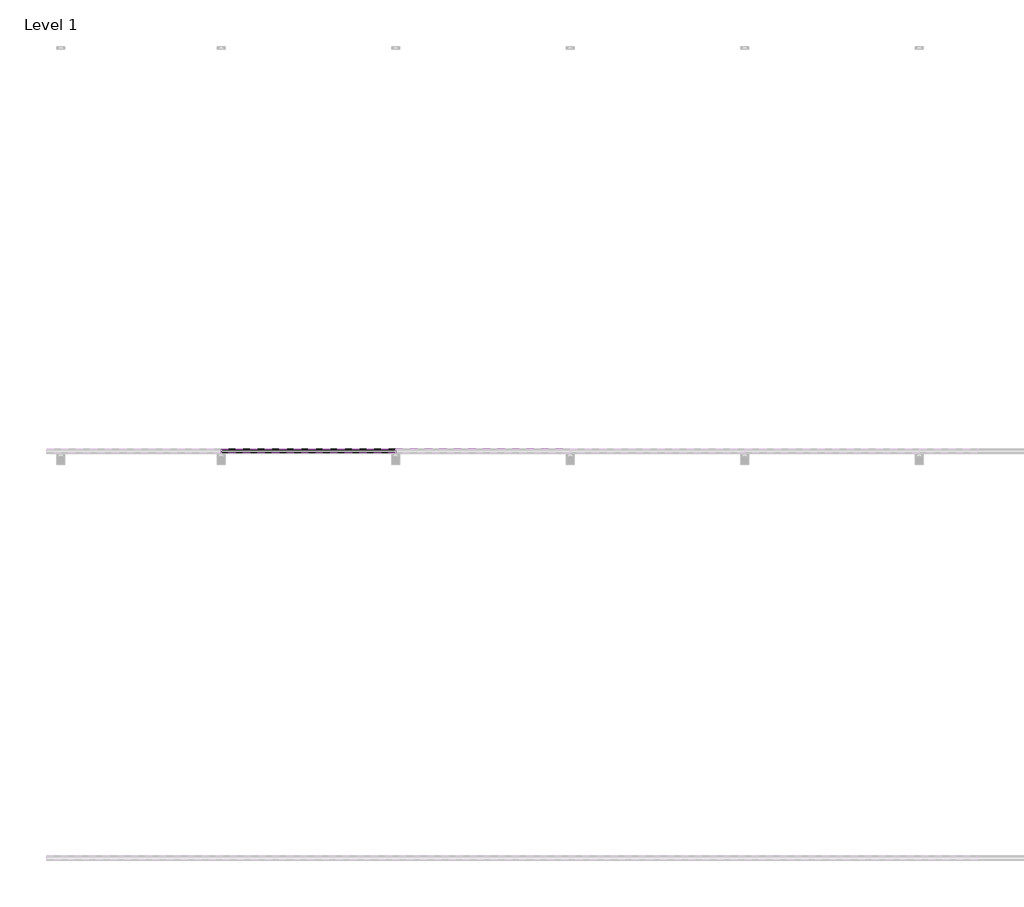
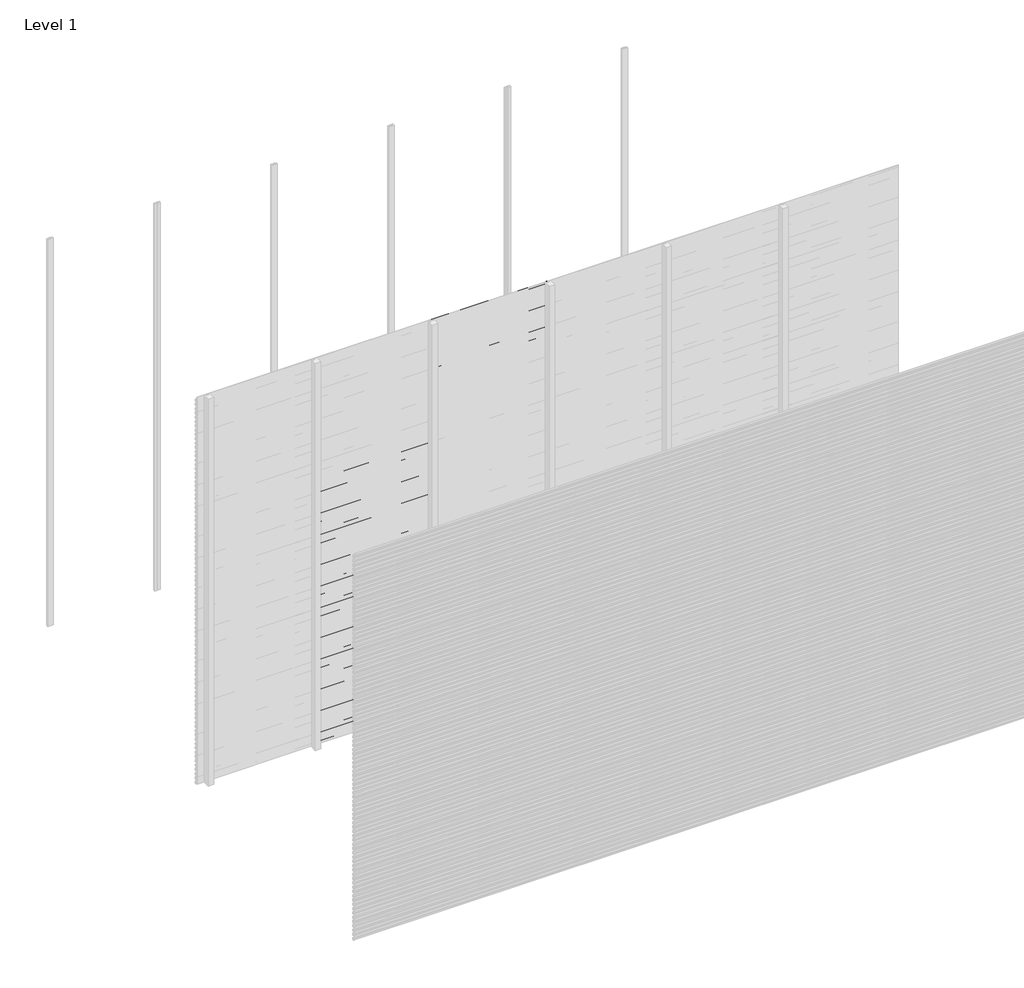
# One storey, part 44 of 96: 77 proxies.
"""IFC4 building model written with IfcOpenShell, lengths in millimetres."""

import ifcopenshell
import ifcopenshell.guid

model = None  # the IFC model being written
_history = None  # IfcOwnerHistory: only IFC2X3 demands one
_inside = {}  # id of a spatial element -> (the spatial element, [elements in it])
_under = {}  # id of a project, library or spatial element -> (it, [spatial elements below it])
_declared = {}  # id of a project -> (the project, [libraries it declares])
_typed = {}  # id of a type object -> (the type object, [elements of that type])
_made_of = {}  # id of a material, layer set ... -> (it, [elements and type objects made of it])


def new_model(schema):
    """Start an empty IFC model of exactly this schema.

    Asked for "IFC4X3", IfcOpenShell would pick the latest addendum, in which some entities
    have other attributes; the version numbers below select the first issue.
    IFC2X3 requires an IfcOwnerHistory on every rooted entity: one is made here for all.
    """
    global model, _history
    if schema == "IFC4X3":
        model = ifcopenshell.file(schema_version=(4, 3, 0, 0))
    else:
        model = ifcopenshell.file(schema=schema)
    _inside.clear()
    _under.clear()
    _declared.clear()
    _typed.clear()
    _made_of.clear()
    _history = None
    if model.schema == "IFC2X3":
        org = make("IfcOrganization", Name="unknown")
        user = make(
            "IfcPersonAndOrganization",
            ThePerson=make("IfcPerson", FamilyName="unknown"),
            TheOrganization=org,
        )
        app = make(
            "IfcApplication",
            ApplicationDeveloper=org,
            Version="unknown",
            ApplicationFullName="unknown",
            ApplicationIdentifier="unknown",
        )
        _history = make(
            "IfcOwnerHistory",
            OwningUser=user,
            OwningApplication=app,
            ChangeAction="ADDED",
            CreationDate=0,
        )
    return model


def make(cls, **values):
    """One entity of the class cls with the attributes given. An attribute that is None is left unset."""
    return model.create_entity(
        cls, **{name: value for name, value in values.items() if value is not None}
    )


def rooted(cls, **values):
    """An entity with a GlobalId (a new one), such as an element, a storey or a relation."""
    return make(cls, GlobalId=ifcopenshell.guid.new(), OwnerHistory=_history, **values)


def si_unit(unit_type, name, prefix=None):
    """IfcSIUnit, for example si_unit("LENGTHUNIT", "METRE", prefix="MILLI")."""
    return make("IfcSIUnit", UnitType=unit_type, Prefix=prefix, Name=name)


def assignment(units):
    """IfcUnitAssignment: the units of a project."""
    return None if units is None else make("IfcUnitAssignment", Units=units)


def point(xyz):
    """IfcCartesianPoint."""
    return None if xyz is None else make("IfcCartesianPoint", Coordinates=xyz)


def direction(xyz):
    """IfcDirection."""
    return None if xyz is None else make("IfcDirection", DirectionRatios=xyz)


def frame(location, z_axis=None, x_axis=None):
    """IfcAxis2Placement3D, a coordinate frame: its origin and axes. An axis left out is left unset."""
    return make(
        "IfcAxis2Placement3D",
        Location=point(location),
        Axis=direction(z_axis),
        RefDirection=direction(x_axis),
    )


def origin():
    """The frame at (0, 0, 0) with its axes left unset."""
    return frame((0.0, 0.0, 0.0))


def place(relative_to, where):
    """IfcLocalPlacement: puts the frame where relative to a parent placement (None: the world)."""
    return make(
        "IfcLocalPlacement", PlacementRelTo=relative_to, RelativePlacement=where
    )


def context(
    kind, dimensions, precision=None, world=None, true_north=None, identifier=None
):
    """IfcGeometricRepresentationContext, for example the 3D "Model" context."""
    return make(
        "IfcGeometricRepresentationContext",
        ContextIdentifier=identifier,
        ContextType=kind,
        CoordinateSpaceDimension=dimensions,
        Precision=precision,
        WorldCoordinateSystem=world,
        TrueNorth=true_north,
    )


def project(units=None, contexts=None):
    """IfcProject with its units and contexts."""
    return rooted(
        "IfcProject",
        Name="project",
        RepresentationContexts=contexts,
        UnitsInContext=assignment(units),
    )


def spatial(cls, under=None, at=None, **own):
    """A site, building, storey or space (cls), placed at a placement, below another one or the project."""
    s = rooted(cls, ObjectPlacement=at, **own)
    if under is not None:
        _under.setdefault(under.id(), (under, []))[1].append(s)
    return s


def polyline(points):
    """IfcPolyline through the points."""
    return make("IfcPolyline", Points=[point(p) for p in points])


def outline(outer, holes=None, kind="AREA"):
    """IfcArbitraryClosedProfileDef: a profile drawn as a closed curve; with holes, ...WithVoids."""
    if holes is None:
        return make("IfcArbitraryClosedProfileDef", ProfileType=kind, OuterCurve=outer)
    return make(
        "IfcArbitraryProfileDefWithVoids",
        ProfileType=kind,
        OuterCurve=outer,
        InnerCurves=holes,
    )


def extrude(swept, where, along, depth):
    """IfcExtrudedAreaSolid: the profile swept, set in the frame where, extruded along a direction by depth."""
    return make(
        "IfcExtrudedAreaSolid",
        SweptArea=swept,
        Position=where,
        ExtrudedDirection=direction(along),
        Depth=depth,
    )


def shape(context_of_items, identifier, shape_type, items):
    """IfcShapeRepresentation: the items that make up one representation, for example the "Body"."""
    return make(
        "IfcShapeRepresentation",
        ContextOfItems=context_of_items,
        RepresentationIdentifier=identifier,
        RepresentationType=shape_type,
        Items=items,
    )


def made_of(thing, what):
    """Note that an element or type object is made of a material, layer set ...; save() writes the relation."""
    if what is not None:
        _made_of.setdefault(what.id(), (what, []))[1].append(thing)
    return thing


def element(
    cls,
    number,
    at=None,
    inside=None,
    cuts=None,
    type_object=None,
    material=None,
    context=None,
    identifier="Body",
    shape_type=None,
    held_by="IfcProductDefinitionShape",
    body=None,
    shapes=None,
    **own,
):
    """One element of the class cls, such as IfcWall. Its Tag is "e" and its number.

    at: its placement. inside: the storey or other place that contains it. cuts: it is an
    opening in that element (IfcRelVoidsElement). A single representation is given by context,
    identifier, shape_type and body (its items); several are given by shapes. held_by: the class
    of the entity that holds the representations. save() writes the other relations.
    """
    e = rooted(cls, Tag="e%d" % number, ObjectPlacement=at, **own)
    if body is not None:
        shapes = [shape(context, identifier, shape_type, body)]
    if shapes is not None:
        e.Representation = make(held_by, Representations=shapes)
    if inside is not None:
        _inside.setdefault(inside.id(), (inside, []))[1].append(e)
    if cuts is not None:
        rooted(
            "IfcRelVoidsElement", RelatingBuildingElement=cuts, RelatedOpeningElement=e
        )
    if type_object is not None:
        _typed.setdefault(type_object.id(), (type_object, []))[1].append(e)
    return made_of(e, material)


def aggregate(whole, parts):
    """IfcRelAggregates: a whole, such as a stair, and the parts it consists of."""
    return rooted("IfcRelAggregates", RelatingObject=whole, RelatedObjects=parts)


def save(model, path):
    """Write the relations noted so far, then the file.

    IfcRelAggregates (storeys below a building ...), IfcRelContainedInSpatialStructure (elements
    in a storey), IfcRelDefinesByType, IfcRelAssociatesMaterial and IfcRelDeclares: one each for
    every whole, place, type object, material and project.
    """
    for whole, parts in _under.values():
        aggregate(whole, parts)
    for where, things in _inside.values():
        rooted(
            "IfcRelContainedInSpatialStructure",
            RelatedElements=things,
            RelatingStructure=where,
        )
    for kind, things in _typed.values():
        rooted("IfcRelDefinesByType", RelatedObjects=things, RelatingType=kind)
    for what, things in _made_of.values():
        rooted("IfcRelAssociatesMaterial", RelatedObjects=things, RelatingMaterial=what)
    for by, libraries in _declared.values():
        rooted("IfcRelDeclares", RelatingContext=by, RelatedDefinitions=libraries)
    model.write(path)


model = new_model("IFC4")

# Units and contexts
model_context = context("Model", 3, world=origin())
ifc_project = project(units=[si_unit("LENGTHUNIT", "METRE", prefix="MILLI")], contexts=[model_context])

# Site, building, storey
site = spatial("IfcSite", under=ifc_project)
building = spatial("IfcBuilding", under=site)
storey = spatial("IfcBuildingStorey", under=building, Name="Level 1", Elevation=0.0)

# Proxies
placement = place(None, origin())
element("IfcBuildingElementProxy", 1, Name="Wall Sweeps", at=placement, inside=storey, context=model_context, shape_type="SweptSolid", body=[
    extrude(outline(polyline([(-29977.6, 2072.6655033), (-29977.6, 2058.3779188), (-29982.4114965, 2055.6), (-29982.4114965, 2056.8701706), (-29978.85, 2058.9264016), (-29978.85, 2071.9437382), (-29998.0, 2083.0000799), (-29998.0, 2097.9), (-29996.75, 2097.9), (-29996.75, 2083.7217609), (-29977.6, 2072.6655033)])), frame((857.1428571, 0.0, 0.0), z_axis=(1.0, 0.0, 0.0), x_axis=(0.0, 1.0, 0.0)), (0.0, 0.0, 1.0), 857.1428571),
])
element("IfcBuildingElementProxy", 2, Name="Wall Sweeps", at=placement, inside=storey, context=model_context, shape_type="SweptSolid", body=[
    extrude(outline(polyline([(-29977.6, 2039.3655033), (-29977.6, 2025.0779188), (-29982.4114965, 2022.3), (-29982.4114965, 2023.5701706), (-29978.85, 2025.6264016), (-29978.85, 2038.6437382), (-29998.0, 2049.7000799), (-29998.0, 2064.6), (-29996.75, 2064.6), (-29996.75, 2050.4217609), (-29977.6, 2039.3655033)])), frame((857.1428571, 0.0, 0.0), z_axis=(1.0, 0.0, 0.0), x_axis=(0.0, 1.0, 0.0)), (0.0, 0.0, 1.0), 857.1428571),
])
element("IfcBuildingElementProxy", 3, Name="Wall Sweeps", at=placement, inside=storey, context=model_context, shape_type="SweptSolid", body=[
    extrude(outline(polyline([(-29977.6, 2006.0655033), (-29977.6, 1991.7779188), (-29982.4114965, 1989.0), (-29982.4114965, 1990.2701706), (-29978.85, 1992.3264016), (-29978.85, 2005.3437382), (-29998.0, 2016.4000799), (-29998.0, 2031.3), (-29996.75, 2031.3), (-29996.75, 2017.1217609), (-29977.6, 2006.0655033)])), frame((857.1428571, 0.0, 0.0), z_axis=(1.0, 0.0, 0.0), x_axis=(0.0, 1.0, 0.0)), (0.0, 0.0, 1.0), 857.1428571),
])
element("IfcBuildingElementProxy", 4, Name="Wall Sweeps", at=placement, inside=storey, context=model_context, shape_type="SweptSolid", body=[
    extrude(outline(polyline([(-29977.6, 1972.7655033), (-29977.6, 1958.4779188), (-29982.4114965, 1955.7), (-29982.4114965, 1956.9701706), (-29978.85, 1959.0264016), (-29978.85, 1972.0437382), (-29998.0, 1983.1000799), (-29998.0, 1998.0), (-29996.75, 1998.0), (-29996.75, 1983.8217609), (-29977.6, 1972.7655033)])), frame((857.1428571, 0.0, 0.0), z_axis=(1.0, 0.0, 0.0), x_axis=(0.0, 1.0, 0.0)), (0.0, 0.0, 1.0), 857.1428571),
])
element("IfcBuildingElementProxy", 5, Name="Wall Sweeps", at=placement, inside=storey, context=model_context, shape_type="SweptSolid", body=[
    extrude(outline(polyline([(-29977.6, 1939.4655033), (-29977.6, 1925.1779188), (-29982.4114965, 1922.4), (-29982.4114965, 1923.6701706), (-29978.85, 1925.7264016), (-29978.85, 1938.7437382), (-29998.0, 1949.8000799), (-29998.0, 1964.7), (-29996.75, 1964.7), (-29996.75, 1950.5217609), (-29977.6, 1939.4655033)])), frame((857.1428571, 0.0, 0.0), z_axis=(1.0, 0.0, 0.0), x_axis=(0.0, 1.0, 0.0)), (0.0, 0.0, 1.0), 857.1428571),
])
element("IfcBuildingElementProxy", 6, Name="Wall Sweeps", at=placement, inside=storey, context=model_context, shape_type="SweptSolid", body=[
    extrude(outline(polyline([(-29977.6, 1906.1655033), (-29977.6, 1891.8779188), (-29982.4114965, 1889.1), (-29982.4114965, 1890.3701706), (-29978.85, 1892.4264016), (-29978.85, 1905.4437382), (-29998.0, 1916.5000799), (-29998.0, 1931.4), (-29996.75, 1931.4), (-29996.75, 1917.2217609), (-29977.6, 1906.1655033)])), frame((857.1428571, 0.0, 0.0), z_axis=(1.0, 0.0, 0.0), x_axis=(0.0, 1.0, 0.0)), (0.0, 0.0, 1.0), 857.1428571),
])
element("IfcBuildingElementProxy", 7, Name="Wall Sweeps", at=placement, inside=storey, context=model_context, shape_type="SweptSolid", body=[
    extrude(outline(polyline([(-29977.6, 1872.8655033), (-29977.6, 1858.5779188), (-29982.4114965, 1855.8), (-29982.4114965, 1857.0701706), (-29978.85, 1859.1264016), (-29978.85, 1872.1437382), (-29998.0, 1883.2000799), (-29998.0, 1898.1), (-29996.75, 1898.1), (-29996.75, 1883.9217609), (-29977.6, 1872.8655033)])), frame((857.1428571, 0.0, 0.0), z_axis=(1.0, 0.0, 0.0), x_axis=(0.0, 1.0, 0.0)), (0.0, 0.0, 1.0), 857.1428571),
])
element("IfcBuildingElementProxy", 8, Name="Wall Sweeps", at=placement, inside=storey, context=model_context, shape_type="SweptSolid", body=[
    extrude(outline(polyline([(-29977.6, 1839.5655033), (-29977.6, 1825.2779188), (-29982.4114965, 1822.5), (-29982.4114965, 1823.7701706), (-29978.85, 1825.8264016), (-29978.85, 1838.8437382), (-29998.0, 1849.9000799), (-29998.0, 1864.8), (-29996.75, 1864.8), (-29996.75, 1850.6217609), (-29977.6, 1839.5655033)])), frame((857.1428571, 0.0, 0.0), z_axis=(1.0, 0.0, 0.0), x_axis=(0.0, 1.0, 0.0)), (0.0, 0.0, 1.0), 857.1428571),
])
element("IfcBuildingElementProxy", 9, Name="Wall Sweeps", at=placement, inside=storey, context=model_context, shape_type="SweptSolid", body=[
    extrude(outline(polyline([(-29977.6, 1806.2655033), (-29977.6, 1791.9779188), (-29982.4114965, 1789.2), (-29982.4114965, 1790.4701706), (-29978.85, 1792.5264016), (-29978.85, 1805.5437382), (-29998.0, 1816.6000799), (-29998.0, 1831.5), (-29996.75, 1831.5), (-29996.75, 1817.3217609), (-29977.6, 1806.2655033)])), frame((857.1428571, 0.0, 0.0), z_axis=(1.0, 0.0, 0.0), x_axis=(0.0, 1.0, 0.0)), (0.0, 0.0, 1.0), 857.1428571),
])
element("IfcBuildingElementProxy", 10, Name="Wall Sweeps", at=placement, inside=storey, context=model_context, shape_type="SweptSolid", body=[
    extrude(outline(polyline([(-29977.6, 1772.9655033), (-29977.6, 1758.6779188), (-29982.4114965, 1755.9), (-29982.4114965, 1757.1701706), (-29978.85, 1759.2264016), (-29978.85, 1772.2437382), (-29998.0, 1783.3000799), (-29998.0, 1798.2), (-29996.75, 1798.2), (-29996.75, 1784.0217609), (-29977.6, 1772.9655033)])), frame((857.1428571, 0.0, 0.0), z_axis=(1.0, 0.0, 0.0), x_axis=(0.0, 1.0, 0.0)), (0.0, 0.0, 1.0), 857.1428571),
])
element("IfcBuildingElementProxy", 11, Name="Wall Sweeps", at=placement, inside=storey, context=model_context, shape_type="SweptSolid", body=[
    extrude(outline(polyline([(-29977.6, 1739.6655033), (-29977.6, 1725.3779188), (-29982.4114965, 1722.6), (-29982.4114965, 1723.8701706), (-29978.85, 1725.9264016), (-29978.85, 1738.9437382), (-29998.0, 1750.0000799), (-29998.0, 1764.9), (-29996.75, 1764.9), (-29996.75, 1750.7217609), (-29977.6, 1739.6655033)])), frame((857.1428571, 0.0, 0.0), z_axis=(1.0, 0.0, 0.0), x_axis=(0.0, 1.0, 0.0)), (0.0, 0.0, 1.0), 857.1428571),
])
element("IfcBuildingElementProxy", 12, Name="Wall Sweeps", at=placement, inside=storey, context=model_context, shape_type="SweptSolid", body=[
    extrude(outline(polyline([(-29977.6, 1706.3655033), (-29977.6, 1692.0779188), (-29982.4114965, 1689.3), (-29982.4114965, 1690.5701706), (-29978.85, 1692.6264016), (-29978.85, 1705.6437382), (-29998.0, 1716.7000799), (-29998.0, 1731.6), (-29996.75, 1731.6), (-29996.75, 1717.4217609), (-29977.6, 1706.3655033)])), frame((857.1428571, 0.0, 0.0), z_axis=(1.0, 0.0, 0.0), x_axis=(0.0, 1.0, 0.0)), (0.0, 0.0, 1.0), 857.1428571),
])
element("IfcBuildingElementProxy", 13, Name="Wall Sweeps", at=placement, inside=storey, context=model_context, shape_type="SweptSolid", body=[
    extrude(outline(polyline([(-29977.6, 1673.0655033), (-29977.6, 1658.7779188), (-29982.4114965, 1656.0), (-29982.4114965, 1657.2701706), (-29978.85, 1659.3264016), (-29978.85, 1672.3437382), (-29998.0, 1683.4000799), (-29998.0, 1698.3), (-29996.75, 1698.3), (-29996.75, 1684.1217609), (-29977.6, 1673.0655033)])), frame((857.1428571, 0.0, 0.0), z_axis=(1.0, 0.0, 0.0), x_axis=(0.0, 1.0, 0.0)), (0.0, 0.0, 1.0), 857.1428571),
])
element("IfcBuildingElementProxy", 14, Name="Wall Sweeps", at=placement, inside=storey, context=model_context, shape_type="SweptSolid", body=[
    extrude(outline(polyline([(-29977.6, 1639.7655033), (-29977.6, 1625.4779188), (-29982.4114965, 1622.7), (-29982.4114965, 1623.9701706), (-29978.85, 1626.0264016), (-29978.85, 1639.0437382), (-29998.0, 1650.1000799), (-29998.0, 1665.0), (-29996.75, 1665.0), (-29996.75, 1650.8217609), (-29977.6, 1639.7655033)])), frame((857.1428571, 0.0, 0.0), z_axis=(1.0, 0.0, 0.0), x_axis=(0.0, 1.0, 0.0)), (0.0, 0.0, 1.0), 857.1428571),
])
element("IfcBuildingElementProxy", 15, Name="Wall Sweeps", at=placement, inside=storey, context=model_context, shape_type="SweptSolid", body=[
    extrude(outline(polyline([(-29977.6, 1606.4655033), (-29977.6, 1592.1779188), (-29982.4114965, 1589.4), (-29982.4114965, 1590.6701706), (-29978.85, 1592.7264016), (-29978.85, 1605.7437382), (-29998.0, 1616.8000799), (-29998.0, 1631.7), (-29996.75, 1631.7), (-29996.75, 1617.5217609), (-29977.6, 1606.4655033)])), frame((857.1428571, 0.0, 0.0), z_axis=(1.0, 0.0, 0.0), x_axis=(0.0, 1.0, 0.0)), (0.0, 0.0, 1.0), 857.1428571),
])
element("IfcBuildingElementProxy", 16, Name="Wall Sweeps", at=placement, inside=storey, context=model_context, shape_type="SweptSolid", body=[
    extrude(outline(polyline([(-29977.6, 1573.1655033), (-29977.6, 1558.8779188), (-29982.4114965, 1556.1), (-29982.4114965, 1557.3701706), (-29978.85, 1559.4264016), (-29978.85, 1572.4437382), (-29998.0, 1583.5000799), (-29998.0, 1598.4), (-29996.75, 1598.4), (-29996.75, 1584.2217609), (-29977.6, 1573.1655033)])), frame((857.1428571, 0.0, 0.0), z_axis=(1.0, 0.0, 0.0), x_axis=(0.0, 1.0, 0.0)), (0.0, 0.0, 1.0), 857.1428571),
])
element("IfcBuildingElementProxy", 17, Name="Wall Sweeps", at=placement, inside=storey, context=model_context, shape_type="SweptSolid", body=[
    extrude(outline(polyline([(-29977.6, 1539.8655033), (-29977.6, 1525.5779188), (-29982.4114965, 1522.8), (-29982.4114965, 1524.0701706), (-29978.85, 1526.1264016), (-29978.85, 1539.1437382), (-29998.0, 1550.2000799), (-29998.0, 1565.1), (-29996.75, 1565.1), (-29996.75, 1550.9217609), (-29977.6, 1539.8655033)])), frame((857.1428571, 0.0, 0.0), z_axis=(1.0, 0.0, 0.0), x_axis=(0.0, 1.0, 0.0)), (0.0, 0.0, 1.0), 857.1428571),
])
element("IfcBuildingElementProxy", 18, Name="Wall Sweeps", at=placement, inside=storey, context=model_context, shape_type="SweptSolid", body=[
    extrude(outline(polyline([(-29977.6, 1506.5655033), (-29977.6, 1492.2779188), (-29982.4114965, 1489.5), (-29982.4114965, 1490.7701706), (-29978.85, 1492.8264016), (-29978.85, 1505.8437382), (-29998.0, 1516.9000799), (-29998.0, 1531.8), (-29996.75, 1531.8), (-29996.75, 1517.6217609), (-29977.6, 1506.5655033)])), frame((857.1428571, 0.0, 0.0), z_axis=(1.0, 0.0, 0.0), x_axis=(0.0, 1.0, 0.0)), (0.0, 0.0, 1.0), 857.1428571),
])
element("IfcBuildingElementProxy", 19, Name="Wall Sweeps", at=placement, inside=storey, context=model_context, shape_type="SweptSolid", body=[
    extrude(outline(polyline([(-29977.6, 1473.2655033), (-29977.6, 1458.9779188), (-29982.4114965, 1456.2), (-29982.4114965, 1457.4701706), (-29978.85, 1459.5264016), (-29978.85, 1472.5437382), (-29998.0, 1483.6000799), (-29998.0, 1498.5), (-29996.75, 1498.5), (-29996.75, 1484.3217609), (-29977.6, 1473.2655033)])), frame((857.1428571, 0.0, 0.0), z_axis=(1.0, 0.0, 0.0), x_axis=(0.0, 1.0, 0.0)), (0.0, 0.0, 1.0), 857.1428571),
])
element("IfcBuildingElementProxy", 20, Name="Wall Sweeps", at=placement, inside=storey, context=model_context, shape_type="SweptSolid", body=[
    extrude(outline(polyline([(-29977.6, 1439.9655033), (-29977.6, 1425.6779188), (-29982.4114965, 1422.9), (-29982.4114965, 1424.1701706), (-29978.85, 1426.2264016), (-29978.85, 1439.2437382), (-29998.0, 1450.3000799), (-29998.0, 1465.2), (-29996.75, 1465.2), (-29996.75, 1451.0217609), (-29977.6, 1439.9655033)])), frame((857.1428571, 0.0, 0.0), z_axis=(1.0, 0.0, 0.0), x_axis=(0.0, 1.0, 0.0)), (0.0, 0.0, 1.0), 857.1428571),
])
element("IfcBuildingElementProxy", 21, Name="Wall Sweeps", at=placement, inside=storey, context=model_context, shape_type="SweptSolid", body=[
    extrude(outline(polyline([(-29977.6, 1406.6655033), (-29977.6, 1392.3779188), (-29982.4114965, 1389.6), (-29982.4114965, 1390.8701706), (-29978.85, 1392.9264016), (-29978.85, 1405.9437382), (-29998.0, 1417.0000799), (-29998.0, 1431.9), (-29996.75, 1431.9), (-29996.75, 1417.7217609), (-29977.6, 1406.6655033)])), frame((857.1428571, 0.0, 0.0), z_axis=(1.0, 0.0, 0.0), x_axis=(0.0, 1.0, 0.0)), (0.0, 0.0, 1.0), 857.1428571),
])
element("IfcBuildingElementProxy", 22, Name="Wall Sweeps", at=placement, inside=storey, context=model_context, shape_type="SweptSolid", body=[
    extrude(outline(polyline([(-29977.6, 1373.3655033), (-29977.6, 1359.0779188), (-29982.4114965, 1356.3), (-29982.4114965, 1357.5701706), (-29978.85, 1359.6264016), (-29978.85, 1372.6437382), (-29998.0, 1383.7000799), (-29998.0, 1398.6), (-29996.75, 1398.6), (-29996.75, 1384.4217609), (-29977.6, 1373.3655033)])), frame((857.1428571, 0.0, 0.0), z_axis=(1.0, 0.0, 0.0), x_axis=(0.0, 1.0, 0.0)), (0.0, 0.0, 1.0), 857.1428571),
])
element("IfcBuildingElementProxy", 23, Name="Wall Sweeps", at=placement, inside=storey, context=model_context, shape_type="SweptSolid", body=[
    extrude(outline(polyline([(-29977.6, 1340.0655033), (-29977.6, 1325.7779188), (-29982.4114965, 1323.0), (-29982.4114965, 1324.2701706), (-29978.85, 1326.3264016), (-29978.85, 1339.3437382), (-29998.0, 1350.4000799), (-29998.0, 1365.3), (-29996.75, 1365.3), (-29996.75, 1351.1217609), (-29977.6, 1340.0655033)])), frame((857.1428571, 0.0, 0.0), z_axis=(1.0, 0.0, 0.0), x_axis=(0.0, 1.0, 0.0)), (0.0, 0.0, 1.0), 857.1428571),
])
element("IfcBuildingElementProxy", 24, Name="Wall Sweeps", at=placement, inside=storey, context=model_context, shape_type="SweptSolid", body=[
    extrude(outline(polyline([(-29977.6, 1306.7655033), (-29977.6, 1292.4779188), (-29982.4114965, 1289.7), (-29982.4114965, 1290.9701706), (-29978.85, 1293.0264016), (-29978.85, 1306.0437382), (-29998.0, 1317.1000799), (-29998.0, 1332.0), (-29996.75, 1332.0), (-29996.75, 1317.8217609), (-29977.6, 1306.7655033)])), frame((857.1428571, 0.0, 0.0), z_axis=(1.0, 0.0, 0.0), x_axis=(0.0, 1.0, 0.0)), (0.0, 0.0, 1.0), 857.1428571),
])
element("IfcBuildingElementProxy", 25, Name="Wall Sweeps", at=placement, inside=storey, context=model_context, shape_type="SweptSolid", body=[
    extrude(outline(polyline([(-29977.6, 1273.4655033), (-29977.6, 1259.1779188), (-29982.4114965, 1256.4), (-29982.4114965, 1257.6701706), (-29978.85, 1259.7264016), (-29978.85, 1272.7437382), (-29998.0, 1283.8000799), (-29998.0, 1298.7), (-29996.75, 1298.7), (-29996.75, 1284.5217609), (-29977.6, 1273.4655033)])), frame((857.1428571, 0.0, 0.0), z_axis=(1.0, 0.0, 0.0), x_axis=(0.0, 1.0, 0.0)), (0.0, 0.0, 1.0), 857.1428571),
])
element("IfcBuildingElementProxy", 26, Name="Wall Sweeps", at=placement, inside=storey, context=model_context, shape_type="SweptSolid", body=[
    extrude(outline(polyline([(-29977.6, 1240.1655033), (-29977.6, 1225.8779188), (-29982.4114965, 1223.1), (-29982.4114965, 1224.3701706), (-29978.85, 1226.4264016), (-29978.85, 1239.4437382), (-29998.0, 1250.5000799), (-29998.0, 1265.4), (-29996.75, 1265.4), (-29996.75, 1251.2217609), (-29977.6, 1240.1655033)])), frame((857.1428571, 0.0, 0.0), z_axis=(1.0, 0.0, 0.0), x_axis=(0.0, 1.0, 0.0)), (0.0, 0.0, 1.0), 857.1428571),
])
element("IfcBuildingElementProxy", 27, Name="Wall Sweeps", at=placement, inside=storey, context=model_context, shape_type="SweptSolid", body=[
    extrude(outline(polyline([(-29977.6, 1206.8655033), (-29977.6, 1192.5779188), (-29982.4114965, 1189.8), (-29982.4114965, 1191.0701706), (-29978.85, 1193.1264016), (-29978.85, 1206.1437382), (-29998.0, 1217.2000799), (-29998.0, 1232.1), (-29996.75, 1232.1), (-29996.75, 1217.9217609), (-29977.6, 1206.8655033)])), frame((857.1428571, 0.0, 0.0), z_axis=(1.0, 0.0, 0.0), x_axis=(0.0, 1.0, 0.0)), (0.0, 0.0, 1.0), 857.1428571),
])
element("IfcBuildingElementProxy", 28, Name="Wall Sweeps", at=placement, inside=storey, context=model_context, shape_type="SweptSolid", body=[
    extrude(outline(polyline([(-29977.6, 1173.5655033), (-29977.6, 1159.2779188), (-29982.4114965, 1156.5), (-29982.4114965, 1157.7701706), (-29978.85, 1159.8264016), (-29978.85, 1172.8437382), (-29998.0, 1183.9000799), (-29998.0, 1198.8), (-29996.75, 1198.8), (-29996.75, 1184.6217609), (-29977.6, 1173.5655033)])), frame((857.1428571, 0.0, 0.0), z_axis=(1.0, 0.0, 0.0), x_axis=(0.0, 1.0, 0.0)), (0.0, 0.0, 1.0), 857.1428571),
])
element("IfcBuildingElementProxy", 29, Name="Wall Sweeps", at=placement, inside=storey, context=model_context, shape_type="SweptSolid", body=[
    extrude(outline(polyline([(-29977.6, 1140.2655033), (-29977.6, 1125.9779188), (-29982.4114965, 1123.2), (-29982.4114965, 1124.4701706), (-29978.85, 1126.5264016), (-29978.85, 1139.5437382), (-29998.0, 1150.6000799), (-29998.0, 1165.5), (-29996.75, 1165.5), (-29996.75, 1151.3217609), (-29977.6, 1140.2655033)])), frame((857.1428571, 0.0, 0.0), z_axis=(1.0, 0.0, 0.0), x_axis=(0.0, 1.0, 0.0)), (0.0, 0.0, 1.0), 857.1428571),
])
element("IfcBuildingElementProxy", 30, Name="Wall Sweeps", at=placement, inside=storey, context=model_context, shape_type="SweptSolid", body=[
    extrude(outline(polyline([(-29977.6, 1106.9655033), (-29977.6, 1092.6779188), (-29982.4114965, 1089.9), (-29982.4114965, 1091.1701706), (-29978.85, 1093.2264016), (-29978.85, 1106.2437382), (-29998.0, 1117.3000799), (-29998.0, 1132.2), (-29996.75, 1132.2), (-29996.75, 1118.0217609), (-29977.6, 1106.9655033)])), frame((857.1428571, 0.0, 0.0), z_axis=(1.0, 0.0, 0.0), x_axis=(0.0, 1.0, 0.0)), (0.0, 0.0, 1.0), 857.1428571),
])
element("IfcBuildingElementProxy", 31, Name="Wall Sweeps", at=placement, inside=storey, context=model_context, shape_type="SweptSolid", body=[
    extrude(outline(polyline([(-29977.6, 1073.6655033), (-29977.6, 1059.3779188), (-29982.4114965, 1056.6), (-29982.4114965, 1057.8701706), (-29978.85, 1059.9264016), (-29978.85, 1072.9437382), (-29998.0, 1084.0000799), (-29998.0, 1098.9), (-29996.75, 1098.9), (-29996.75, 1084.7217609), (-29977.6, 1073.6655033)])), frame((857.1428571, 0.0, 0.0), z_axis=(1.0, 0.0, 0.0), x_axis=(0.0, 1.0, 0.0)), (0.0, 0.0, 1.0), 857.1428571),
])
element("IfcBuildingElementProxy", 32, Name="Wall Sweeps", at=placement, inside=storey, context=model_context, shape_type="SweptSolid", body=[
    extrude(outline(polyline([(-29977.6, 1040.3655033), (-29977.6, 1026.0779188), (-29982.4114965, 1023.3), (-29982.4114965, 1024.5701706), (-29978.85, 1026.6264016), (-29978.85, 1039.6437382), (-29998.0, 1050.7000799), (-29998.0, 1065.6), (-29996.75, 1065.6), (-29996.75, 1051.4217609), (-29977.6, 1040.3655033)])), frame((857.1428571, 0.0, 0.0), z_axis=(1.0, 0.0, 0.0), x_axis=(0.0, 1.0, 0.0)), (0.0, 0.0, 1.0), 857.1428571),
])
element("IfcBuildingElementProxy", 33, Name="Wall Sweeps", at=placement, inside=storey, context=model_context, shape_type="SweptSolid", body=[
    extrude(outline(polyline([(-29977.6, 1007.0655033), (-29977.6, 992.7779188), (-29982.4114965, 990.0), (-29982.4114965, 991.2701706), (-29978.85, 993.3264016), (-29978.85, 1006.3437382), (-29998.0, 1017.4000799), (-29998.0, 1032.3), (-29996.75, 1032.3), (-29996.75, 1018.1217609), (-29977.6, 1007.0655033)])), frame((857.1428571, 0.0, 0.0), z_axis=(1.0, 0.0, 0.0), x_axis=(0.0, 1.0, 0.0)), (0.0, 0.0, 1.0), 857.1428571),
])
element("IfcBuildingElementProxy", 34, Name="Wall Sweeps", at=placement, inside=storey, context=model_context, shape_type="SweptSolid", body=[
    extrude(outline(polyline([(-29977.6, 973.7655033), (-29977.6, 959.4779188), (-29982.4114965, 956.7), (-29982.4114965, 957.9701706), (-29978.85, 960.0264016), (-29978.85, 973.0437382), (-29998.0, 984.1000799), (-29998.0, 999.0), (-29996.75, 999.0), (-29996.75, 984.8217609), (-29977.6, 973.7655033)])), frame((857.1428571, 0.0, 0.0), z_axis=(1.0, 0.0, 0.0), x_axis=(0.0, 1.0, 0.0)), (0.0, 0.0, 1.0), 857.1428571),
])
element("IfcBuildingElementProxy", 35, Name="Wall Sweeps", at=placement, inside=storey, context=model_context, shape_type="SweptSolid", body=[
    extrude(outline(polyline([(-29977.6, 940.4655033), (-29977.6, 926.1779188), (-29982.4114965, 923.4), (-29982.4114965, 924.6701706), (-29978.85, 926.7264016), (-29978.85, 939.7437382), (-29998.0, 950.8000799), (-29998.0, 965.7), (-29996.75, 965.7), (-29996.75, 951.5217609), (-29977.6, 940.4655033)])), frame((857.1428571, 0.0, 0.0), z_axis=(1.0, 0.0, 0.0), x_axis=(0.0, 1.0, 0.0)), (0.0, 0.0, 1.0), 857.1428571),
])
element("IfcBuildingElementProxy", 36, Name="Wall Sweeps", at=placement, inside=storey, context=model_context, shape_type="SweptSolid", body=[
    extrude(outline(polyline([(-29977.6, 907.1655033), (-29977.6, 892.8779188), (-29982.4114965, 890.1), (-29982.4114965, 891.3701706), (-29978.85, 893.4264016), (-29978.85, 906.4437382), (-29998.0, 917.5000799), (-29998.0, 932.4), (-29996.75, 932.4), (-29996.75, 918.2217609), (-29977.6, 907.1655033)])), frame((857.1428571, 0.0, 0.0), z_axis=(1.0, 0.0, 0.0), x_axis=(0.0, 1.0, 0.0)), (0.0, 0.0, 1.0), 857.1428571),
])
element("IfcBuildingElementProxy", 37, Name="Wall Sweeps", at=placement, inside=storey, context=model_context, shape_type="SweptSolid", body=[
    extrude(outline(polyline([(-29977.6, 873.8655033), (-29977.6, 859.5779188), (-29982.4114965, 856.8), (-29982.4114965, 858.0701706), (-29978.85, 860.1264016), (-29978.85, 873.1437382), (-29998.0, 884.2000799), (-29998.0, 899.1), (-29996.75, 899.1), (-29996.75, 884.9217609), (-29977.6, 873.8655033)])), frame((857.1428571, 0.0, 0.0), z_axis=(1.0, 0.0, 0.0), x_axis=(0.0, 1.0, 0.0)), (0.0, 0.0, 1.0), 857.1428571),
])
element("IfcBuildingElementProxy", 38, Name="Wall Sweeps", at=placement, inside=storey, context=model_context, shape_type="SweptSolid", body=[
    extrude(outline(polyline([(-29977.6, 840.5655033), (-29977.6, 826.2779188), (-29982.4114965, 823.5), (-29982.4114965, 824.7701706), (-29978.85, 826.8264016), (-29978.85, 839.8437382), (-29998.0, 850.9000799), (-29998.0, 865.8), (-29996.75, 865.8), (-29996.75, 851.6217609), (-29977.6, 840.5655033)])), frame((857.1428571, 0.0, 0.0), z_axis=(1.0, 0.0, 0.0), x_axis=(0.0, 1.0, 0.0)), (0.0, 0.0, 1.0), 857.1428571),
])
element("IfcBuildingElementProxy", 39, Name="Wall Sweeps", at=placement, inside=storey, context=model_context, shape_type="SweptSolid", body=[
    extrude(outline(polyline([(-29977.6, 807.2655033), (-29977.6, 792.9779188), (-29982.4114965, 790.2), (-29982.4114965, 791.4701706), (-29978.85, 793.5264016), (-29978.85, 806.5437382), (-29998.0, 817.6000799), (-29998.0, 832.5), (-29996.75, 832.5), (-29996.75, 818.3217609), (-29977.6, 807.2655033)])), frame((857.1428571, 0.0, 0.0), z_axis=(1.0, 0.0, 0.0), x_axis=(0.0, 1.0, 0.0)), (0.0, 0.0, 1.0), 857.1428571),
])
element("IfcBuildingElementProxy", 40, Name="Wall Sweeps", at=placement, inside=storey, context=model_context, shape_type="SweptSolid", body=[
    extrude(outline(polyline([(-29977.6, 773.9655033), (-29977.6, 759.6779188), (-29982.4114965, 756.9), (-29982.4114965, 758.1701706), (-29978.85, 760.2264016), (-29978.85, 773.2437382), (-29998.0, 784.3000799), (-29998.0, 799.2), (-29996.75, 799.2), (-29996.75, 785.0217609), (-29977.6, 773.9655033)])), frame((857.1428571, 0.0, 0.0), z_axis=(1.0, 0.0, 0.0), x_axis=(0.0, 1.0, 0.0)), (0.0, 0.0, 1.0), 857.1428571),
])
element("IfcBuildingElementProxy", 41, Name="Wall Sweeps", at=placement, inside=storey, context=model_context, shape_type="SweptSolid", body=[
    extrude(outline(polyline([(-29977.6, 740.6655033), (-29977.6, 726.3779188), (-29982.4114965, 723.6), (-29982.4114965, 724.8701706), (-29978.85, 726.9264016), (-29978.85, 739.9437382), (-29998.0, 751.0000799), (-29998.0, 765.9), (-29996.75, 765.9), (-29996.75, 751.7217609), (-29977.6, 740.6655033)])), frame((857.1428571, 0.0, 0.0), z_axis=(1.0, 0.0, 0.0), x_axis=(0.0, 1.0, 0.0)), (0.0, 0.0, 1.0), 857.1428571),
])
element("IfcBuildingElementProxy", 42, Name="Wall Sweeps", at=placement, inside=storey, context=model_context, shape_type="SweptSolid", body=[
    extrude(outline(polyline([(-29977.6, 707.3655033), (-29977.6, 693.0779188), (-29982.4114965, 690.3), (-29982.4114965, 691.5701706), (-29978.85, 693.6264016), (-29978.85, 706.6437382), (-29998.0, 717.7000799), (-29998.0, 732.6), (-29996.75, 732.6), (-29996.75, 718.4217609), (-29977.6, 707.3655033)])), frame((857.1428571, 0.0, 0.0), z_axis=(1.0, 0.0, 0.0), x_axis=(0.0, 1.0, 0.0)), (0.0, 0.0, 1.0), 857.1428571),
])
element("IfcBuildingElementProxy", 43, Name="Wall Sweeps", at=placement, inside=storey, context=model_context, shape_type="SweptSolid", body=[
    extrude(outline(polyline([(-29977.6, 674.0655033), (-29977.6, 659.7779188), (-29982.4114965, 657.0), (-29982.4114965, 658.2701706), (-29978.85, 660.3264016), (-29978.85, 673.3437382), (-29998.0, 684.4000799), (-29998.0, 699.3), (-29996.75, 699.3), (-29996.75, 685.1217609), (-29977.6, 674.0655033)])), frame((857.1428571, 0.0, 0.0), z_axis=(1.0, 0.0, 0.0), x_axis=(0.0, 1.0, 0.0)), (0.0, 0.0, 1.0), 857.1428571),
])
element("IfcBuildingElementProxy", 44, Name="Wall Sweeps", at=placement, inside=storey, context=model_context, shape_type="SweptSolid", body=[
    extrude(outline(polyline([(-29977.6, 640.7655033), (-29977.6, 626.4779188), (-29982.4114965, 623.7), (-29982.4114965, 624.9701706), (-29978.85, 627.0264016), (-29978.85, 640.0437382), (-29998.0, 651.1000799), (-29998.0, 666.0), (-29996.75, 666.0), (-29996.75, 651.8217609), (-29977.6, 640.7655033)])), frame((857.1428571, 0.0, 0.0), z_axis=(1.0, 0.0, 0.0), x_axis=(0.0, 1.0, 0.0)), (0.0, 0.0, 1.0), 857.1428571),
])
element("IfcBuildingElementProxy", 45, Name="Wall Sweeps", at=placement, inside=storey, context=model_context, shape_type="SweptSolid", body=[
    extrude(outline(polyline([(-29977.6, 607.4655033), (-29977.6, 593.1779188), (-29982.4114965, 590.4), (-29982.4114965, 591.6701706), (-29978.85, 593.7264016), (-29978.85, 606.7437382), (-29998.0, 617.8000799), (-29998.0, 632.7), (-29996.75, 632.7), (-29996.75, 618.5217609), (-29977.6, 607.4655033)])), frame((857.1428571, 0.0, 0.0), z_axis=(1.0, 0.0, 0.0), x_axis=(0.0, 1.0, 0.0)), (0.0, 0.0, 1.0), 857.1428571),
])
element("IfcBuildingElementProxy", 46, Name="Wall Sweeps", at=placement, inside=storey, context=model_context, shape_type="SweptSolid", body=[
    extrude(outline(polyline([(-29977.6, 574.1655033), (-29977.6, 559.8779188), (-29982.4114965, 557.1), (-29982.4114965, 558.3701706), (-29978.85, 560.4264016), (-29978.85, 573.4437382), (-29998.0, 584.5000799), (-29998.0, 599.4), (-29996.75, 599.4), (-29996.75, 585.2217609), (-29977.6, 574.1655033)])), frame((857.1428571, 0.0, 0.0), z_axis=(1.0, 0.0, 0.0), x_axis=(0.0, 1.0, 0.0)), (0.0, 0.0, 1.0), 857.1428571),
])
element("IfcBuildingElementProxy", 47, Name="Wall Sweeps", at=placement, inside=storey, context=model_context, shape_type="SweptSolid", body=[
    extrude(outline(polyline([(-29977.6, 540.8655033), (-29977.6, 526.5779188), (-29982.4114965, 523.8), (-29982.4114965, 525.0701706), (-29978.85, 527.1264016), (-29978.85, 540.1437382), (-29998.0, 551.2000799), (-29998.0, 566.1), (-29996.75, 566.1), (-29996.75, 551.9217609), (-29977.6, 540.8655033)])), frame((857.1428571, 0.0, 0.0), z_axis=(1.0, 0.0, 0.0), x_axis=(0.0, 1.0, 0.0)), (0.0, 0.0, 1.0), 857.1428571),
])
element("IfcBuildingElementProxy", 48, Name="Wall Sweeps", at=placement, inside=storey, context=model_context, shape_type="SweptSolid", body=[
    extrude(outline(polyline([(-29977.6, 507.5655033), (-29977.6, 493.2779188), (-29982.4114965, 490.5), (-29982.4114965, 491.7701706), (-29978.85, 493.8264016), (-29978.85, 506.8437382), (-29998.0, 517.9000799), (-29998.0, 532.8), (-29996.75, 532.8), (-29996.75, 518.6217609), (-29977.6, 507.5655033)])), frame((857.1428571, 0.0, 0.0), z_axis=(1.0, 0.0, 0.0), x_axis=(0.0, 1.0, 0.0)), (0.0, 0.0, 1.0), 857.1428571),
])
element("IfcBuildingElementProxy", 49, Name="Wall Sweeps", at=placement, inside=storey, context=model_context, shape_type="SweptSolid", body=[
    extrude(outline(polyline([(-29977.6, 474.2655033), (-29977.6, 459.9779188), (-29982.4114965, 457.2), (-29982.4114965, 458.4701706), (-29978.85, 460.5264016), (-29978.85, 473.5437382), (-29998.0, 484.6000799), (-29998.0, 499.5), (-29996.75, 499.5), (-29996.75, 485.3217609), (-29977.6, 474.2655033)])), frame((857.1428571, 0.0, 0.0), z_axis=(1.0, 0.0, 0.0), x_axis=(0.0, 1.0, 0.0)), (0.0, 0.0, 1.0), 857.1428571),
])
element("IfcBuildingElementProxy", 50, Name="Wall Sweeps", at=placement, inside=storey, context=model_context, shape_type="SweptSolid", body=[
    extrude(outline(polyline([(-29977.6, 440.9655033), (-29977.6, 426.6779188), (-29982.4114965, 423.9), (-29982.4114965, 425.1701706), (-29978.85, 427.2264016), (-29978.85, 440.2437382), (-29998.0, 451.3000799), (-29998.0, 466.2), (-29996.75, 466.2), (-29996.75, 452.0217609), (-29977.6, 440.9655033)])), frame((857.1428571, 0.0, 0.0), z_axis=(1.0, 0.0, 0.0), x_axis=(0.0, 1.0, 0.0)), (0.0, 0.0, 1.0), 857.1428571),
])
element("IfcBuildingElementProxy", 51, Name="Wall Sweeps", at=placement, inside=storey, context=model_context, shape_type="SweptSolid", body=[
    extrude(outline(polyline([(-29977.6, 407.6655033), (-29977.6, 393.3779188), (-29982.4114965, 390.6), (-29982.4114965, 391.8701706), (-29978.85, 393.9264016), (-29978.85, 406.9437382), (-29998.0, 418.0000799), (-29998.0, 432.9), (-29996.75, 432.9), (-29996.75, 418.7217609), (-29977.6, 407.6655033)])), frame((857.1428571, 0.0, 0.0), z_axis=(1.0, 0.0, 0.0), x_axis=(0.0, 1.0, 0.0)), (0.0, 0.0, 1.0), 857.1428571),
])
element("IfcBuildingElementProxy", 52, Name="Wall Sweeps", at=placement, inside=storey, context=model_context, shape_type="SweptSolid", body=[
    extrude(outline(polyline([(-29977.6, 374.3655033), (-29977.6, 360.0779188), (-29982.4114965, 357.3), (-29982.4114965, 358.5701706), (-29978.85, 360.6264016), (-29978.85, 373.6437382), (-29998.0, 384.7000799), (-29998.0, 399.6), (-29996.75, 399.6), (-29996.75, 385.4217609), (-29977.6, 374.3655033)])), frame((857.1428571, 0.0, 0.0), z_axis=(1.0, 0.0, 0.0), x_axis=(0.0, 1.0, 0.0)), (0.0, 0.0, 1.0), 857.1428571),
])
element("IfcBuildingElementProxy", 53, Name="Wall Sweeps", at=placement, inside=storey, context=model_context, shape_type="SweptSolid", body=[
    extrude(outline(polyline([(-29977.6, 341.0655033), (-29977.6, 326.7779188), (-29982.4114965, 324.0), (-29982.4114965, 325.2701706), (-29978.85, 327.3264016), (-29978.85, 340.3437382), (-29998.0, 351.4000799), (-29998.0, 366.3), (-29996.75, 366.3), (-29996.75, 352.1217609), (-29977.6, 341.0655033)])), frame((857.1428571, 0.0, 0.0), z_axis=(1.0, 0.0, 0.0), x_axis=(0.0, 1.0, 0.0)), (0.0, 0.0, 1.0), 857.1428571),
])
element("IfcBuildingElementProxy", 54, Name="Wall Sweeps", at=placement, inside=storey, context=model_context, shape_type="SweptSolid", body=[
    extrude(outline(polyline([(-29977.6, 307.7655033), (-29977.6, 293.4779188), (-29982.4114965, 290.7), (-29982.4114965, 291.9701706), (-29978.85, 294.0264016), (-29978.85, 307.0437382), (-29998.0, 318.1000799), (-29998.0, 333.0), (-29996.75, 333.0), (-29996.75, 318.8217609), (-29977.6, 307.7655033)])), frame((857.1428571, 0.0, 0.0), z_axis=(1.0, 0.0, 0.0), x_axis=(0.0, 1.0, 0.0)), (0.0, 0.0, 1.0), 857.1428571),
])
element("IfcBuildingElementProxy", 55, Name="Wall Sweeps", at=placement, inside=storey, context=model_context, shape_type="SweptSolid", body=[
    extrude(outline(polyline([(-29977.6, 274.4655033), (-29977.6, 260.1779188), (-29982.4114965, 257.4), (-29982.4114965, 258.6701706), (-29978.85, 260.7264016), (-29978.85, 273.7437382), (-29998.0, 284.8000799), (-29998.0, 299.7), (-29996.75, 299.7), (-29996.75, 285.5217609), (-29977.6, 274.4655033)])), frame((857.1428571, 0.0, 0.0), z_axis=(1.0, 0.0, 0.0), x_axis=(0.0, 1.0, 0.0)), (0.0, 0.0, 1.0), 857.1428571),
])
element("IfcBuildingElementProxy", 56, Name="Wall Sweeps", at=placement, inside=storey, context=model_context, shape_type="SweptSolid", body=[
    extrude(outline(polyline([(-29977.6, 241.1655033), (-29977.6, 226.8779188), (-29982.4114965, 224.1), (-29982.4114965, 225.3701706), (-29978.85, 227.4264016), (-29978.85, 240.4437382), (-29998.0, 251.5000799), (-29998.0, 266.4), (-29996.75, 266.4), (-29996.75, 252.2217609), (-29977.6, 241.1655033)])), frame((857.1428571, 0.0, 0.0), z_axis=(1.0, 0.0, 0.0), x_axis=(0.0, 1.0, 0.0)), (0.0, 0.0, 1.0), 857.1428571),
])
element("IfcBuildingElementProxy", 57, Name="Wall Sweeps", at=placement, inside=storey, context=model_context, shape_type="SweptSolid", body=[
    extrude(outline(polyline([(-29977.6, 207.8655033), (-29977.6, 193.5779188), (-29982.4114965, 190.8), (-29982.4114965, 192.0701706), (-29978.85, 194.1264016), (-29978.85, 207.1437382), (-29998.0, 218.2000799), (-29998.0, 233.1), (-29996.75, 233.1), (-29996.75, 218.9217609), (-29977.6, 207.8655033)])), frame((857.1428571, 0.0, 0.0), z_axis=(1.0, 0.0, 0.0), x_axis=(0.0, 1.0, 0.0)), (0.0, 0.0, 1.0), 857.1428571),
])
element("IfcBuildingElementProxy", 58, Name="Wall Sweeps", at=placement, inside=storey, context=model_context, shape_type="SweptSolid", body=[
    extrude(outline(polyline([(-29977.6, 174.5655033), (-29977.6, 160.2779188), (-29982.4114965, 157.5), (-29982.4114965, 158.7701706), (-29978.85, 160.8264016), (-29978.85, 173.8437382), (-29998.0, 184.9000799), (-29998.0, 199.8), (-29996.75, 199.8), (-29996.75, 185.6217609), (-29977.6, 174.5655033)])), frame((857.1428571, 0.0, 0.0), z_axis=(1.0, 0.0, 0.0), x_axis=(0.0, 1.0, 0.0)), (0.0, 0.0, 1.0), 857.1428571),
])
element("IfcBuildingElementProxy", 59, Name="Wall Sweeps", at=placement, inside=storey, context=model_context, shape_type="SweptSolid", body=[
    extrude(outline(polyline([(-29977.6, 141.2655033), (-29977.6, 126.9779188), (-29982.4114965, 124.2), (-29982.4114965, 125.4701706), (-29978.85, 127.5264016), (-29978.85, 140.5437382), (-29998.0, 151.6000799), (-29998.0, 166.5), (-29996.75, 166.5), (-29996.75, 152.3217609), (-29977.6, 141.2655033)])), frame((857.1428571, 0.0, 0.0), z_axis=(1.0, 0.0, 0.0), x_axis=(0.0, 1.0, 0.0)), (0.0, 0.0, 1.0), 857.1428571),
])
element("IfcBuildingElementProxy", 60, Name="Wall Sweeps", at=placement, inside=storey, context=model_context, shape_type="SweptSolid", body=[
    extrude(outline(polyline([(-29977.6, 107.9655033), (-29977.6, 93.6779188), (-29982.4114965, 90.9), (-29982.4114965, 92.1701706), (-29978.85, 94.2264016), (-29978.85, 107.2437382), (-29998.0, 118.3000799), (-29998.0, 133.2), (-29996.75, 133.2), (-29996.75, 119.0217609), (-29977.6, 107.9655033)])), frame((857.1428571, 0.0, 0.0), z_axis=(1.0, 0.0, 0.0), x_axis=(0.0, 1.0, 0.0)), (0.0, 0.0, 1.0), 857.1428571),
])
element("IfcBuildingElementProxy", 61, Name="Wall Sweeps", at=placement, inside=storey, context=model_context, shape_type="SweptSolid", body=[
    extrude(outline(polyline([(-29977.6, 74.6655033), (-29977.6, 60.3779188), (-29982.4114965, 57.6), (-29982.4114965, 58.8701706), (-29978.85, 60.9264016), (-29978.85, 73.9437382), (-29998.0, 85.0000799), (-29998.0, 99.9), (-29996.75, 99.9), (-29996.75, 85.7217609), (-29977.6, 74.6655033)])), frame((857.1428571, 0.0, 0.0), z_axis=(1.0, 0.0, 0.0), x_axis=(0.0, 1.0, 0.0)), (0.0, 0.0, 1.0), 857.1428571),
])
element("IfcBuildingElementProxy", 62, Name="Wall Sweeps", at=placement, inside=storey, context=model_context, shape_type="SweptSolid", body=[
    extrude(outline(polyline([(-29977.6, 41.3655033), (-29977.6, 27.0779188), (-29982.4114965, 24.3), (-29982.4114965, 25.5701706), (-29978.85, 27.6264016), (-29978.85, 40.6437382), (-29998.0, 51.7000799), (-29998.0, 66.6), (-29996.75, 66.6), (-29996.75, 52.4217609), (-29977.6, 41.3655033)])), frame((857.1428571, 0.0, 0.0), z_axis=(1.0, 0.0, 0.0), x_axis=(0.0, 1.0, 0.0)), (0.0, 0.0, 1.0), 857.1428571),
])
element("IfcBuildingElementProxy", 63, Name="Wall Sweeps", at=placement, inside=storey, context=model_context, shape_type="SweptSolid", body=[
    extrude(outline(polyline([(-29977.6, 8.0655033), (-29977.6, -6.2220812), (-29982.4114965, -9.0), (-29982.4114965, -7.7298294), (-29978.85, -5.6735984), (-29978.85, 7.3437382), (-29998.0, 18.4000799), (-29998.0, 33.3), (-29996.75, 33.3), (-29996.75, 19.1217609), (-29977.6, 8.0655033)])), frame((857.1428571, 0.0, 0.0), z_axis=(1.0, 0.0, 0.0), x_axis=(0.0, 1.0, 0.0)), (0.0, 0.0, 1.0), 857.1428571),
])
element("IfcBuildingElementProxy", 64, Name="Wall Sweeps", at=placement, inside=storey, context=model_context, shape_type="SweptSolid", body=[
    extrude(outline(polyline([(-29977.6, 2971.7655033), (-29977.6, 2957.4779188), (-29982.4114965, 2954.7), (-29982.4114965, 2955.9701706), (-29978.85, 2958.0264016), (-29978.85, 2971.0437382), (-29998.0, 2982.1000799), (-29998.0, 2997.0), (-29996.75, 2997.0), (-29996.75, 2982.8217609), (-29977.6, 2971.7655033)])), frame((1714.2857143, 0.0, 0.0), z_axis=(1.0, 0.0, 0.0), x_axis=(0.0, 1.0, 0.0)), (0.0, 0.0, 1.0), 857.1428571),
])
element("IfcBuildingElementProxy", 65, Name="Wall Sweeps", at=placement, inside=storey, context=model_context, shape_type="SweptSolid", body=[
    extrude(outline(polyline([(-29977.6, 2938.4655033), (-29977.6, 2924.1779188), (-29982.4114965, 2921.4), (-29982.4114965, 2922.6701706), (-29978.85, 2924.7264016), (-29978.85, 2937.7437382), (-29998.0, 2948.8000799), (-29998.0, 2963.7), (-29996.75, 2963.7), (-29996.75, 2949.5217609), (-29977.6, 2938.4655033)])), frame((1714.2857143, 0.0, 0.0), z_axis=(1.0, 0.0, 0.0), x_axis=(0.0, 1.0, 0.0)), (0.0, 0.0, 1.0), 857.1428571),
])
element("IfcBuildingElementProxy", 66, Name="Wall Sweeps", at=placement, inside=storey, context=model_context, shape_type="SweptSolid", body=[
    extrude(outline(polyline([(-29977.6, 2905.1655033), (-29977.6, 2890.8779188), (-29982.4114965, 2888.1), (-29982.4114965, 2889.3701706), (-29978.85, 2891.4264016), (-29978.85, 2904.4437382), (-29998.0, 2915.5000799), (-29998.0, 2930.4), (-29996.75, 2930.4), (-29996.75, 2916.2217609), (-29977.6, 2905.1655033)])), frame((1714.2857143, 0.0, 0.0), z_axis=(1.0, 0.0, 0.0), x_axis=(0.0, 1.0, 0.0)), (0.0, 0.0, 1.0), 857.1428571),
])
element("IfcBuildingElementProxy", 67, Name="Wall Sweeps", at=placement, inside=storey, context=model_context, shape_type="SweptSolid", body=[
    extrude(outline(polyline([(-29977.6, 2871.8655033), (-29977.6, 2857.5779188), (-29982.4114965, 2854.8), (-29982.4114965, 2856.0701706), (-29978.85, 2858.1264016), (-29978.85, 2871.1437382), (-29998.0, 2882.2000799), (-29998.0, 2897.1), (-29996.75, 2897.1), (-29996.75, 2882.9217609), (-29977.6, 2871.8655033)])), frame((1714.2857143, 0.0, 0.0), z_axis=(1.0, 0.0, 0.0), x_axis=(0.0, 1.0, 0.0)), (0.0, 0.0, 1.0), 857.1428571),
])
element("IfcBuildingElementProxy", 68, Name="Wall Sweeps", at=placement, inside=storey, context=model_context, shape_type="SweptSolid", body=[
    extrude(outline(polyline([(-29977.6, 2838.5655033), (-29977.6, 2824.2779188), (-29982.4114965, 2821.5), (-29982.4114965, 2822.7701706), (-29978.85, 2824.8264016), (-29978.85, 2837.8437382), (-29998.0, 2848.9000799), (-29998.0, 2863.8), (-29996.75, 2863.8), (-29996.75, 2849.6217609), (-29977.6, 2838.5655033)])), frame((1714.2857143, 0.0, 0.0), z_axis=(1.0, 0.0, 0.0), x_axis=(0.0, 1.0, 0.0)), (0.0, 0.0, 1.0), 857.1428571),
])
element("IfcBuildingElementProxy", 69, Name="Wall Sweeps", at=placement, inside=storey, context=model_context, shape_type="SweptSolid", body=[
    extrude(outline(polyline([(-29977.6, 2805.2655033), (-29977.6, 2790.9779188), (-29982.4114965, 2788.2), (-29982.4114965, 2789.4701706), (-29978.85, 2791.5264016), (-29978.85, 2804.5437382), (-29998.0, 2815.6000799), (-29998.0, 2830.5), (-29996.75, 2830.5), (-29996.75, 2816.3217609), (-29977.6, 2805.2655033)])), frame((1714.2857143, 0.0, 0.0), z_axis=(1.0, 0.0, 0.0), x_axis=(0.0, 1.0, 0.0)), (0.0, 0.0, 1.0), 857.1428571),
])
element("IfcBuildingElementProxy", 70, Name="Wall Sweeps", at=placement, inside=storey, context=model_context, shape_type="SweptSolid", body=[
    extrude(outline(polyline([(-29977.6, 2771.9655033), (-29977.6, 2757.6779188), (-29982.4114965, 2754.9), (-29982.4114965, 2756.1701706), (-29978.85, 2758.2264016), (-29978.85, 2771.2437382), (-29998.0, 2782.3000799), (-29998.0, 2797.2), (-29996.75, 2797.2), (-29996.75, 2783.0217609), (-29977.6, 2771.9655033)])), frame((1714.2857143, 0.0, 0.0), z_axis=(1.0, 0.0, 0.0), x_axis=(0.0, 1.0, 0.0)), (0.0, 0.0, 1.0), 857.1428571),
])
element("IfcBuildingElementProxy", 71, Name="Wall Sweeps", at=placement, inside=storey, context=model_context, shape_type="SweptSolid", body=[
    extrude(outline(polyline([(-29977.6, 2738.6655033), (-29977.6, 2724.3779188), (-29982.4114965, 2721.6), (-29982.4114965, 2722.8701706), (-29978.85, 2724.9264016), (-29978.85, 2737.9437382), (-29998.0, 2749.0000799), (-29998.0, 2763.9), (-29996.75, 2763.9), (-29996.75, 2749.7217609), (-29977.6, 2738.6655033)])), frame((1714.2857143, 0.0, 0.0), z_axis=(1.0, 0.0, 0.0), x_axis=(0.0, 1.0, 0.0)), (0.0, 0.0, 1.0), 857.1428571),
])
element("IfcBuildingElementProxy", 72, Name="Wall Sweeps", at=placement, inside=storey, context=model_context, shape_type="SweptSolid", body=[
    extrude(outline(polyline([(-29977.6, 2705.3655033), (-29977.6, 2691.0779188), (-29982.4114965, 2688.3), (-29982.4114965, 2689.5701706), (-29978.85, 2691.6264016), (-29978.85, 2704.6437382), (-29998.0, 2715.7000799), (-29998.0, 2730.6), (-29996.75, 2730.6), (-29996.75, 2716.4217609), (-29977.6, 2705.3655033)])), frame((1714.2857143, 0.0, 0.0), z_axis=(1.0, 0.0, 0.0), x_axis=(0.0, 1.0, 0.0)), (0.0, 0.0, 1.0), 857.1428571),
])
element("IfcBuildingElementProxy", 73, Name="Wall Sweeps", at=placement, inside=storey, context=model_context, shape_type="SweptSolid", body=[
    extrude(outline(polyline([(-29977.6, 2672.0655033), (-29977.6, 2657.7779188), (-29982.4114965, 2655.0), (-29982.4114965, 2656.2701706), (-29978.85, 2658.3264016), (-29978.85, 2671.3437382), (-29998.0, 2682.4000799), (-29998.0, 2697.3), (-29996.75, 2697.3), (-29996.75, 2683.1217609), (-29977.6, 2672.0655033)])), frame((1714.2857143, 0.0, 0.0), z_axis=(1.0, 0.0, 0.0), x_axis=(0.0, 1.0, 0.0)), (0.0, 0.0, 1.0), 857.1428571),
])
element("IfcBuildingElementProxy", 74, Name="Wall Sweeps", at=placement, inside=storey, context=model_context, shape_type="SweptSolid", body=[
    extrude(outline(polyline([(-29977.6, 2638.7655033), (-29977.6, 2624.4779188), (-29982.4114965, 2621.7), (-29982.4114965, 2622.9701706), (-29978.85, 2625.0264016), (-29978.85, 2638.0437382), (-29998.0, 2649.1000799), (-29998.0, 2664.0), (-29996.75, 2664.0), (-29996.75, 2649.8217609), (-29977.6, 2638.7655033)])), frame((1714.2857143, 0.0, 0.0), z_axis=(1.0, 0.0, 0.0), x_axis=(0.0, 1.0, 0.0)), (0.0, 0.0, 1.0), 857.1428571),
])
element("IfcBuildingElementProxy", 75, Name="Wall Sweeps", at=placement, inside=storey, context=model_context, shape_type="SweptSolid", body=[
    extrude(outline(polyline([(-29977.6, 2605.4655033), (-29977.6, 2591.1779188), (-29982.4114965, 2588.4), (-29982.4114965, 2589.6701706), (-29978.85, 2591.7264016), (-29978.85, 2604.7437382), (-29998.0, 2615.8000799), (-29998.0, 2630.7), (-29996.75, 2630.7), (-29996.75, 2616.5217609), (-29977.6, 2605.4655033)])), frame((1714.2857143, 0.0, 0.0), z_axis=(1.0, 0.0, 0.0), x_axis=(0.0, 1.0, 0.0)), (0.0, 0.0, 1.0), 857.1428571),
])
element("IfcBuildingElementProxy", 76, Name="Wall Sweeps", at=placement, inside=storey, context=model_context, shape_type="SweptSolid", body=[
    extrude(outline(polyline([(-29977.6, 2572.1655033), (-29977.6, 2557.8779188), (-29982.4114965, 2555.1), (-29982.4114965, 2556.3701706), (-29978.85, 2558.4264016), (-29978.85, 2571.4437382), (-29998.0, 2582.5000799), (-29998.0, 2597.4), (-29996.75, 2597.4), (-29996.75, 2583.2217609), (-29977.6, 2572.1655033)])), frame((1714.2857143, 0.0, 0.0), z_axis=(1.0, 0.0, 0.0), x_axis=(0.0, 1.0, 0.0)), (0.0, 0.0, 1.0), 857.1428571),
])
element("IfcBuildingElementProxy", 77, Name="Wall Sweeps", at=placement, inside=storey, context=model_context, shape_type="SweptSolid", body=[
    extrude(outline(polyline([(-29977.6, 2538.8655033), (-29977.6, 2524.5779188), (-29982.4114965, 2521.8), (-29982.4114965, 2523.0701706), (-29978.85, 2525.1264016), (-29978.85, 2538.1437382), (-29998.0, 2549.2000799), (-29998.0, 2564.1), (-29996.75, 2564.1), (-29996.75, 2549.9217609), (-29977.6, 2538.8655033)])), frame((1714.2857143, 0.0, 0.0), z_axis=(1.0, 0.0, 0.0), x_axis=(0.0, 1.0, 0.0)), (0.0, 0.0, 1.0), 857.1428571),
])

save(model, "model.ifc")
